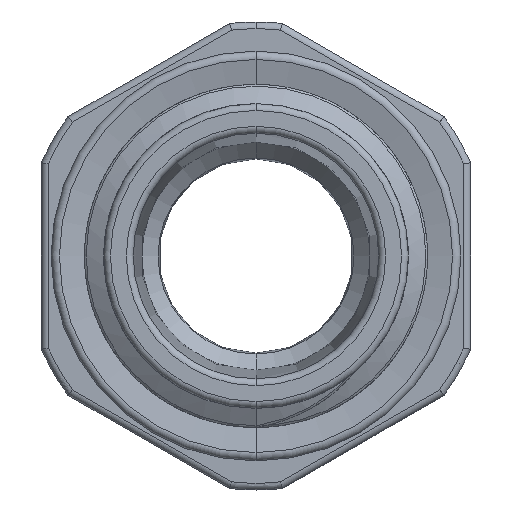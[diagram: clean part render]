
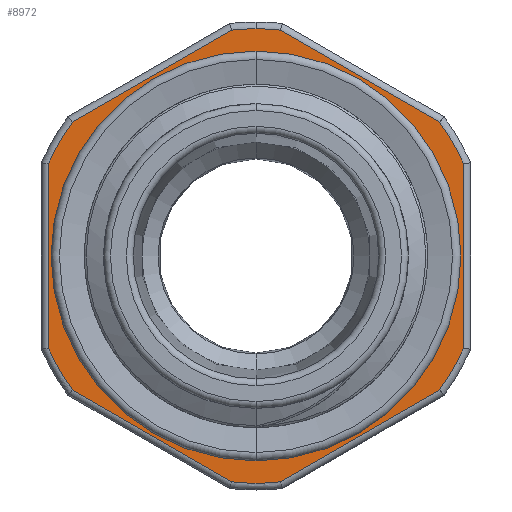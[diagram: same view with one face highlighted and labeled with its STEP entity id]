
A CAD part, front view. The second image highlights one B-rep face of the part: STEP entity #8972.
In plain terms, the highlighted planar face has unit normal (0, -1, 0).
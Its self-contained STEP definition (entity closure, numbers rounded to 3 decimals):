
#247 = CARTESIAN_POINT ( 'NONE',  ( 0., 9.5, 0. ) ) ;
#275 = VECTOR ( 'NONE', #14331, 1000. ) ;
#277 = CIRCLE ( 'NONE', #9119, 9.95 ) ;
#296 = CARTESIAN_POINT ( 'NONE',  ( 0., 9.5, 9.95 ) ) ;
#410 = DIRECTION ( 'NONE',  ( 0., -1., 0. ) ) ;
#531 = CIRCLE ( 'NONE', #1303, 8.975 ) ;
#536 = FACE_BOUND ( 'NONE', #13918, .T. ) ;
#623 = CIRCLE ( 'NONE', #2717, 9.95 ) ;
#634 = AXIS2_PLACEMENT_3D ( 'NONE', #15677, #5554, #10723 ) ;
#727 = ORIENTED_EDGE ( 'NONE', *, *, #1506, .T. ) ;
#803 = CARTESIAN_POINT ( 'NONE',  ( 9.1, 9.5, 0. ) ) ;
#1048 = VERTEX_POINT ( 'NONE', #11650 ) ;
#1154 = ORIENTED_EDGE ( 'NONE', *, *, #14426, .T. ) ;
#1303 = AXIS2_PLACEMENT_3D ( 'NONE', #9284, #10325, #15352 ) ;
#1506 = EDGE_CURVE ( 'NONE', #1048, #1538, #13898, .T. ) ;
#1538 = VERTEX_POINT ( 'NONE', #1627 ) ;
#1616 = DIRECTION ( 'NONE',  ( 0., 0., 1. ) ) ;
#1627 = CARTESIAN_POINT ( 'NONE',  ( 1.065, 9.5, 9.893 ) ) ;
#1665 = VECTOR ( 'NONE', #13321, 1000. ) ;
#1701 = CARTESIAN_POINT ( 'NONE',  ( 0., 9.5, 0. ) ) ;
#1711 = DIRECTION ( 'NONE',  ( -0.866, 0., 0.5 ) ) ;
#1951 = VERTEX_POINT ( 'NONE', #8539 ) ;
#2189 = DIRECTION ( 'NONE',  ( 0., 0., -1. ) ) ;
#2204 = ORIENTED_EDGE ( 'NONE', *, *, #4199, .T. ) ;
#2383 = ORIENTED_EDGE ( 'NONE', *, *, #9267, .T. ) ;
#2459 = VECTOR ( 'NONE', #2189, 1000. ) ;
#2476 = CARTESIAN_POINT ( 'NONE',  ( -9.1, 9.5, -4.024 ) ) ;
#2514 = CARTESIAN_POINT ( 'NONE',  ( 0., 9.5, 0. ) ) ;
#2569 = EDGE_CURVE ( 'NONE', #12006, #13275, #8384, .T. ) ;
#2717 = AXIS2_PLACEMENT_3D ( 'NONE', #7248, #10894, #5867 ) ;
#2855 = CARTESIAN_POINT ( 'NONE',  ( -3.137, 9.5, 12.319 ) ) ;
#2871 = DIRECTION ( 'NONE',  ( 0., 0., -1. ) ) ;
#3029 = EDGE_CURVE ( 'NONE', #1538, #12833, #15148, .T. ) ;
#3300 = EDGE_CURVE ( 'NONE', #5129, #13729, #15967, .T. ) ;
#3430 = ORIENTED_EDGE ( 'NONE', *, *, #3300, .T. ) ;
#3466 = CARTESIAN_POINT ( 'NONE',  ( -8.035, 9.5, -5.869 ) ) ;
#3468 = CARTESIAN_POINT ( 'NONE',  ( -10.25, 9.5, 0. ) ) ;
#3496 = DIRECTION ( 'NONE',  ( 0., -1., 0. ) ) ;
#3648 = VECTOR ( 'NONE', #9430, 1000. ) ;
#3754 = CARTESIAN_POINT ( 'NONE',  ( 0., 9.5, 8.975 ) ) ;
#4033 = VERTEX_POINT ( 'NONE', #5374 ) ;
#4064 = EDGE_CURVE ( 'NONE', #13729, #12006, #10212, .T. ) ;
#4183 = CARTESIAN_POINT ( 'NONE',  ( -12.238, 9.5, 3.442 ) ) ;
#4199 = EDGE_CURVE ( 'NONE', #10681, #16032, #9353, .T. ) ;
#4693 = VECTOR ( 'NONE', #4967, 1000. ) ;
#4868 = CARTESIAN_POINT ( 'NONE',  ( 0., 9.5, 0. ) ) ;
#4967 = DIRECTION ( 'NONE',  ( 0.866, 0., -0.5 ) ) ;
#5129 = VERTEX_POINT ( 'NONE', #11343 ) ;
#5374 = CARTESIAN_POINT ( 'NONE',  ( 0., 9.5, -8.975 ) ) ;
#5379 = CARTESIAN_POINT ( 'NONE',  ( 0., 9.5, 0. ) ) ;
#5554 = DIRECTION ( 'NONE',  ( 0., -1., 0. ) ) ;
#5662 = DIRECTION ( 'NONE',  ( 0., -1., 0. ) ) ;
#5867 = DIRECTION ( 'NONE',  ( 0., 0., 1. ) ) ;
#5891 = DIRECTION ( 'NONE',  ( 0., 1., 0. ) ) ;
#6017 = VERTEX_POINT ( 'NONE', #3754 ) ;
#6330 = AXIS2_PLACEMENT_3D ( 'NONE', #247, #410, #9121 ) ;
#6654 = AXIS2_PLACEMENT_3D ( 'NONE', #1701, #5662, #1616 ) ;
#6770 = CARTESIAN_POINT ( 'NONE',  ( 9.1, 9.5, 4.024 ) ) ;
#7132 = AXIS2_PLACEMENT_3D ( 'NONE', #5379, #13993, #2871 ) ;
#7176 = ORIENTED_EDGE ( 'NONE', *, *, #2569, .T. ) ;
#7248 = CARTESIAN_POINT ( 'NONE',  ( 0., 9.5, 0. ) ) ;
#7372 = VERTEX_POINT ( 'NONE', #6770 ) ;
#7562 = EDGE_CURVE ( 'NONE', #13275, #10681, #13768, .T. ) ;
#7900 = ORIENTED_EDGE ( 'NONE', *, *, #8059, .T. ) ;
#7938 = CARTESIAN_POINT ( 'NONE',  ( -1.065, 9.5, 9.893 ) ) ;
#8059 = EDGE_CURVE ( 'NONE', #8901, #1951, #15529, .T. ) ;
#8384 = LINE ( 'NONE', #12118, #4693 ) ;
#8390 = AXIS2_PLACEMENT_3D ( 'NONE', #2514, #15003, #12507 ) ;
#8443 = CARTESIAN_POINT ( 'NONE',  ( 1.065, 9.5, -9.893 ) ) ;
#8539 = CARTESIAN_POINT ( 'NONE',  ( -8.035, 9.5, 5.869 ) ) ;
#8658 = DIRECTION ( 'NONE',  ( 0., 0., 1. ) ) ;
#8901 = VERTEX_POINT ( 'NONE', #7938 ) ;
#8972 = ADVANCED_FACE ( 'NONE', ( #11680, #536 ), #11907, .F. ) ;
#8991 = ORIENTED_EDGE ( 'NONE', *, *, #3029, .T. ) ;
#9119 = AXIS2_PLACEMENT_3D ( 'NONE', #4868, #3496, #10951 ) ;
#9121 = DIRECTION ( 'NONE',  ( 0., 0., 1. ) ) ;
#9267 = EDGE_CURVE ( 'NONE', #16032, #12799, #623, .T. ) ;
#9284 = CARTESIAN_POINT ( 'NONE',  ( 0., 9.5, 0. ) ) ;
#9353 = LINE ( 'NONE', #14304, #1665 ) ;
#9430 = DIRECTION ( 'NONE',  ( 0., 0., 1. ) ) ;
#9435 = EDGE_CURVE ( 'NONE', #6017, #4033, #11553, .T. ) ;
#9642 = VECTOR ( 'NONE', #1711, 1000. ) ;
#9802 = CARTESIAN_POINT ( 'NONE',  ( 9.1, 9.5, -4.024 ) ) ;
#9966 = CARTESIAN_POINT ( 'NONE',  ( 0., 9.5, 0. ) ) ;
#10205 = DIRECTION ( 'NONE',  ( 0., 0., 1. ) ) ;
#10212 = CIRCLE ( 'NONE', #6330, 9.95 ) ;
#10325 = DIRECTION ( 'NONE',  ( 0., -1., 0. ) ) ;
#10387 = AXIS2_PLACEMENT_3D ( 'NONE', #9966, #14913, #10205 ) ;
#10462 = CIRCLE ( 'NONE', #8390, 9.95 ) ;
#10617 = EDGE_CURVE ( 'NONE', #1951, #5129, #277, .T. ) ;
#10681 = VERTEX_POINT ( 'NONE', #8443 ) ;
#10723 = DIRECTION ( 'NONE',  ( 0., 0., 1. ) ) ;
#10865 = CARTESIAN_POINT ( 'NONE',  ( -9.1, 9.5, 0. ) ) ;
#10894 = DIRECTION ( 'NONE',  ( 0., -1., 0. ) ) ;
#10951 = DIRECTION ( 'NONE',  ( 0., 0., 1. ) ) ;
#11343 = CARTESIAN_POINT ( 'NONE',  ( -9.1, 9.5, 4.024 ) ) ;
#11537 = ORIENTED_EDGE ( 'NONE', *, *, #7562, .T. ) ;
#11553 = CIRCLE ( 'NONE', #7132, 8.975 ) ;
#11589 = CARTESIAN_POINT ( 'NONE',  ( 8.035, 9.5, -5.869 ) ) ;
#11650 = CARTESIAN_POINT ( 'NONE',  ( 8.035, 9.5, 5.869 ) ) ;
#11680 = FACE_OUTER_BOUND ( 'NONE', #14591, .T. ) ;
#11907 = PLANE ( 'NONE',  #15284 ) ;
#11944 = LINE ( 'NONE', #803, #3648 ) ;
#12006 = VERTEX_POINT ( 'NONE', #3466 ) ;
#12118 = CARTESIAN_POINT ( 'NONE',  ( -12.238, 9.5, -3.442 ) ) ;
#12355 = CIRCLE ( 'NONE', #6654, 9.95 ) ;
#12507 = DIRECTION ( 'NONE',  ( 0., 0., 1. ) ) ;
#12538 = ORIENTED_EDGE ( 'NONE', *, *, #14126, .F. ) ;
#12799 = VERTEX_POINT ( 'NONE', #9802 ) ;
#12833 = VERTEX_POINT ( 'NONE', #296 ) ;
#13094 = ORIENTED_EDGE ( 'NONE', *, *, #13425, .T. ) ;
#13139 = ORIENTED_EDGE ( 'NONE', *, *, #14119, .T. ) ;
#13169 = ORIENTED_EDGE ( 'NONE', *, *, #10617, .T. ) ;
#13275 = VERTEX_POINT ( 'NONE', #15816 ) ;
#13321 = DIRECTION ( 'NONE',  ( 0.866, 0., 0.5 ) ) ;
#13413 = ORIENTED_EDGE ( 'NONE', *, *, #9435, .F. ) ;
#13425 = EDGE_CURVE ( 'NONE', #12833, #8901, #10462, .T. ) ;
#13729 = VERTEX_POINT ( 'NONE', #2476 ) ;
#13768 = CIRCLE ( 'NONE', #10387, 9.95 ) ;
#13898 = LINE ( 'NONE', #2855, #9642 ) ;
#13918 = EDGE_LOOP ( 'NONE', ( #12538, #13413 ) ) ;
#13993 = DIRECTION ( 'NONE',  ( 0., -1., 0. ) ) ;
#14119 = EDGE_CURVE ( 'NONE', #12799, #7372, #11944, .T. ) ;
#14126 = EDGE_CURVE ( 'NONE', #4033, #6017, #531, .T. ) ;
#14304 = CARTESIAN_POINT ( 'NONE',  ( -3.137, 9.5, -12.319 ) ) ;
#14331 = DIRECTION ( 'NONE',  ( -0.866, 0., -0.5 ) ) ;
#14426 = EDGE_CURVE ( 'NONE', #7372, #1048, #12355, .T. ) ;
#14591 = EDGE_LOOP ( 'NONE', ( #2204, #2383, #13139, #1154, #727, #8991, #13094, #7900, #13169, #3430, #15356, #7176, #11537 ) ) ;
#14913 = DIRECTION ( 'NONE',  ( 0., -1., 0. ) ) ;
#15003 = DIRECTION ( 'NONE',  ( 0., -1., 0. ) ) ;
#15148 = CIRCLE ( 'NONE', #634, 9.95 ) ;
#15284 = AXIS2_PLACEMENT_3D ( 'NONE', #3468, #5891, #8658 ) ;
#15352 = DIRECTION ( 'NONE',  ( 0., 0., -1. ) ) ;
#15356 = ORIENTED_EDGE ( 'NONE', *, *, #4064, .T. ) ;
#15529 = LINE ( 'NONE', #4183, #275 ) ;
#15677 = CARTESIAN_POINT ( 'NONE',  ( 0., 9.5, 0. ) ) ;
#15816 = CARTESIAN_POINT ( 'NONE',  ( -1.065, 9.5, -9.893 ) ) ;
#15967 = LINE ( 'NONE', #10865, #2459 ) ;
#16032 = VERTEX_POINT ( 'NONE', #11589 ) ;
